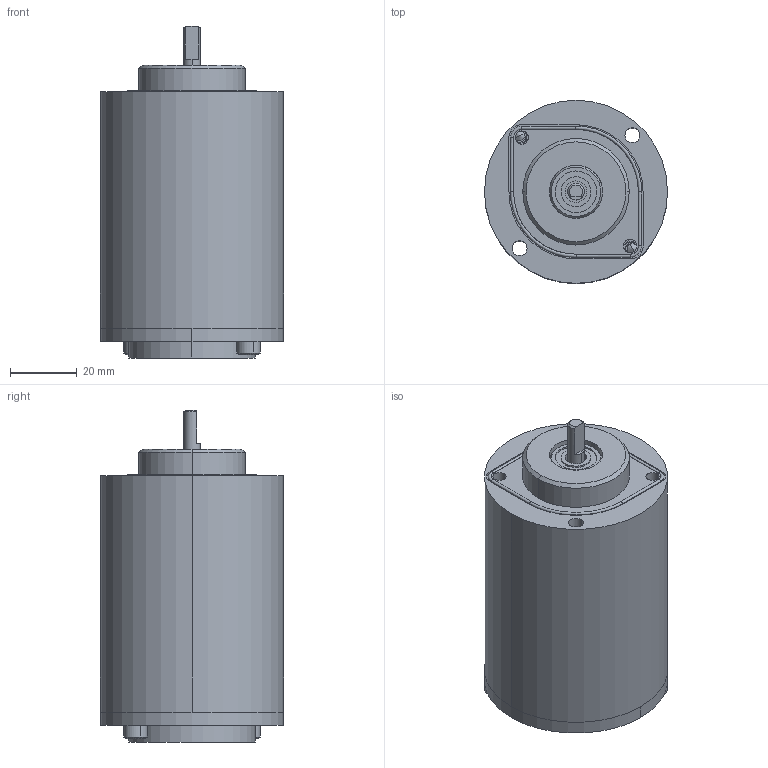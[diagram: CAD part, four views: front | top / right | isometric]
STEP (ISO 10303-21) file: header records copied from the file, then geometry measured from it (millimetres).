
FILE_DESCRIPTION (( 'STEP AP214' ), '1' );
FILE_NAME ('PPC100-0.8.STEP', '2013-11-21T09:47:16', ( '' ), ( '' ), 'SwSTEP 2.0', 'SolidWorks 2013', '' );
FILE_SCHEMA (( 'AUTOMOTIVE_DESIGN' ));
Length unit declared in the file: millimetre
Products named in the file (1): PPC100-0.8
Bounding box: 55 x 55 x 99.75 mm (x, y, z)
Surface area: 24917.9 mm2 (no closed solid volume)
Topology: 0 solids, 7 shells, 126 faces, 377 edges, 261 vertices
Faces by surface type: cylinder 53, plane 46, cone 14, torus 8, bspline 5
Entity records: 6066 total; most frequent: CARTESIAN_POINT 1200, DIRECTION 755, ORIENTED_EDGE 640, EDGE_CURVE 373, AXIS2_PLACEMENT_3D 290, VERTEX_POINT 261, VECTOR 175, LINE 175
